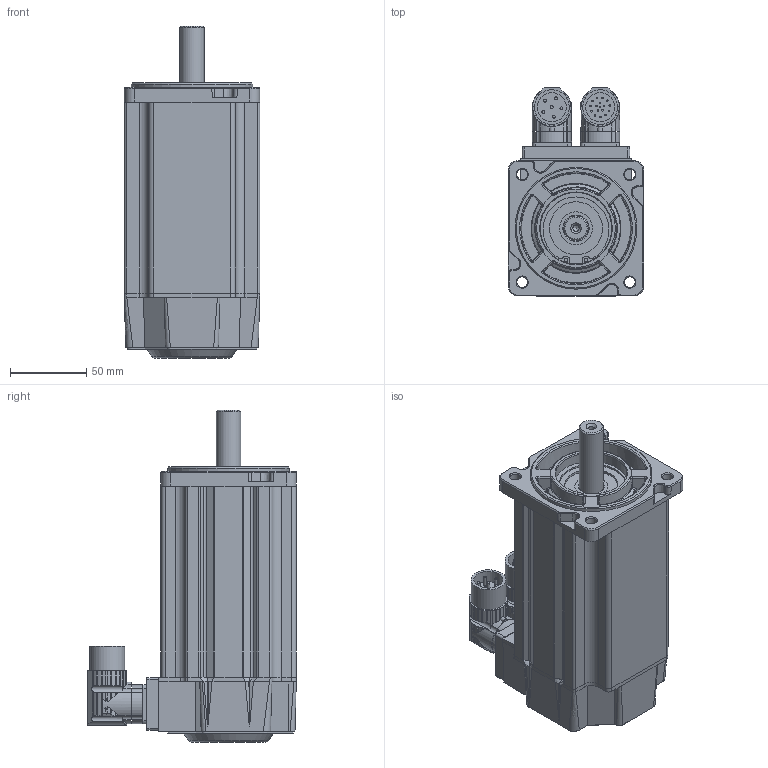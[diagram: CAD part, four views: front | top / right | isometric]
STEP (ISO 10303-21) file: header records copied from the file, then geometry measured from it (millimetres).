
FILE_DESCRIPTION((''),'2;1');
FILE_NAME('C:\CAD_work\Dummy_Modeling_Project_02-12-05\3D MODELS\MPP0923XXX_NPSN.stp','2005-12-20T16:58:07',('jevans'),(''),'Autodesk Inventor 10','Autodesk Inventor 10','');
FILE_SCHEMA(('AUTOMOTIVE_DESIGN { 1 0 10303 214 1 1 1 1 }'));
Length unit declared in the file: inch
Products named in the file (1): MPP092_MOTOR
Bounding box: 88.9 x 137.01 x 218.14 mm (x, y, z)
Volume: 1255318.2 mm3; surface area: 105216.6 mm2
Topology: 1 solids, 1 shells, 797 faces, 2073 edges, 1309 vertices
Faces by surface type: bspline 302, cylinder 249, plane 211, cone 24, torus 11
Full cylindrical faces by diameter (mm): 1.016 x17, 1.956 x6, 2.362 x2, 15.999 x1, 16.002 x1, 19.05 x1, 19.66 x1, 21.59 x1, 22.86 x1, 34.823 x1, 46.253 x1, 46.761 x1, 47.015 x2, 49.835 x1, 52.324 x1, 74.93 x1, 80 x1
Entity records: 35727 total; most frequent: CARTESIAN_POINT 18205, ORIENTED_EDGE 3998, DIRECTION 3012, EDGE_CURVE 1999, VERTEX_POINT 1299, AXIS2_PLACEMENT_3D 1127, EDGE_LOOP 924, FACE_OUTER_BOUND 797
